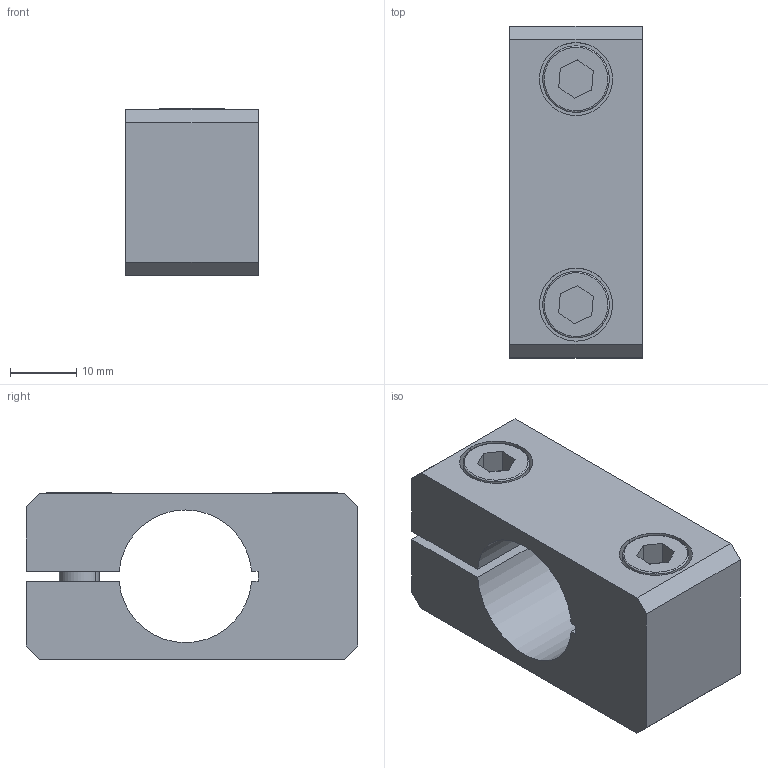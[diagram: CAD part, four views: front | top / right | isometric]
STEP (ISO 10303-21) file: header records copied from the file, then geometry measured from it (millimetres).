
FILE_DESCRIPTION (( 'STEP AP214' ), '1' );
FILE_NAME ('SMBH1-20M6T.STEP', '2022-12-29T09:01:55', ( 'Windows User' ), ( 'P R C' ), 'SwSTEP 2.0', 'SolidWorks 2018', '' );
FILE_SCHEMA (( 'AUTOMOTIVE_DESIGN' ));
Length unit declared in the file: millimetre
Products named in the file (1): SMBH1-20M6T
Bounding box: 20 x 50 x 25.1 mm (x, y, z)
Volume: 17420.9 mm3; surface area: 9171.8 mm2
Topology: 5 solids, 5 shells, 366 faces, 1054 edges, 700 vertices
Faces by surface type: plane 326, cylinder 28, cone 8, bspline 4
Entity records: 16250 total; most frequent: CARTESIAN_POINT 2205, DIRECTION 2128, ORIENTED_EDGE 2108, EDGE_CURVE 1054, AXIS2_PLACEMENT_3D 719, VERTEX_POINT 700, VECTOR 690, LINE 690
